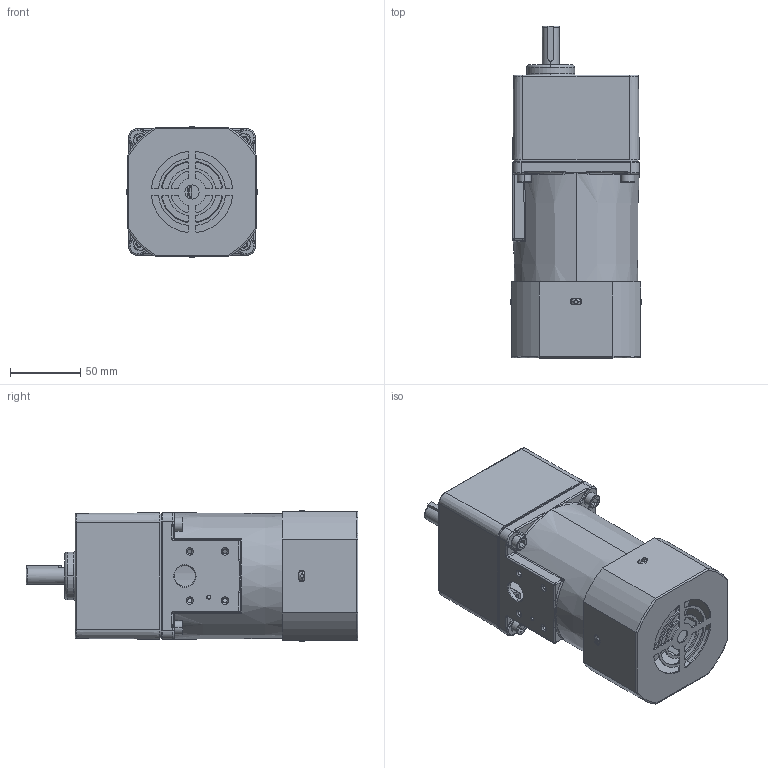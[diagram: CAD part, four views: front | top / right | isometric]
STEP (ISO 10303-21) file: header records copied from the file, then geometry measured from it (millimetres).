
FILE_DESCRIPTION (( 'STEP AP203' ), '1' );
FILE_NAME ('90YT60WGV22+90GF18H12.STEP', '2021-02-19T05:42:10', ( '' ), ( '' ), 'SwSTEP 2.0', 'SolidWorks 2016', '' );
FILE_SCHEMA (( 'CONFIG_CONTROL_DESIGN' ));
Length unit declared in the file: millimetre
Products named in the file (4): 90GF-90S-S(90-40W-12粣 ); 90YT-40(60)W+H; 90YT60WGV22+90GF18H12; 90YT
Assembly tree (3 placements, depth 2):
  90YT60WGV22+90GF18H12
    90YT-40(60)W+H
    90GF-90S-S(90-40W-12粣 )
    90YT
Bounding box: 93.39 x 236.25 x 93.39 mm (x, y, z)
Volume: 360474.8 mm3; surface area: 193238.8 mm2
Topology: 13 solids, 13 shells, 1154 faces, 2919 edges, 1791 vertices
Faces by surface type: cylinder 447, plane 273, torus 151, bspline 143, cone 90, sphere 50
Entity records: 52385 total; most frequent: CARTESIAN_POINT 25377, ORIENTED_EDGE 5758, DIRECTION 5293, EDGE_CURVE 2879, AXIS2_PLACEMENT_3D 2124, VERTEX_POINT 1791, EDGE_LOOP 1272, ADVANCED_FACE 1154
